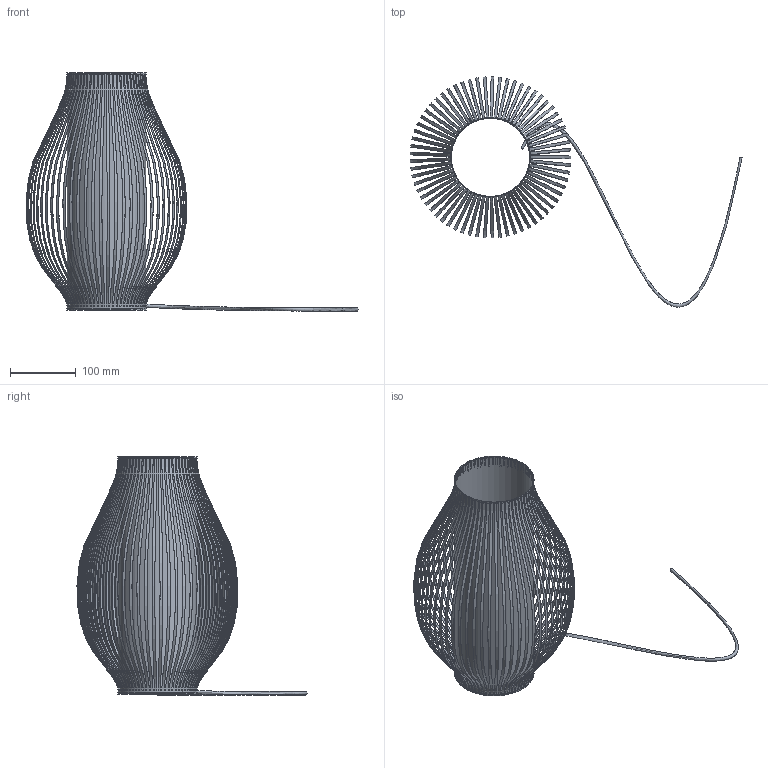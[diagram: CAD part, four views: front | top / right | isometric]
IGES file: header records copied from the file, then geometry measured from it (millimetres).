
Global section: file name: C:\Users\EQUIPO\Desktop\COLECCIONES ACB MODELADAS 3D OK\MURTA\murta-3054-35-e27 (IGES).igs; native system: Rhinoceros ( Oct  8 2013 ); preprocessor: Trout Lake IGES 012 Oct  8 2013; date: 190207.112334; units: millimetre
Bounding box: 506.3 x 350.95 x 363.26 mm (x, y, z)
Surface area: 360464.3 mm2 (no closed solid volume)
Topology: 0 solids, 0 shells, 394 faces, 1578 edges, 1575 vertices
Faces by surface type: bspline 394
